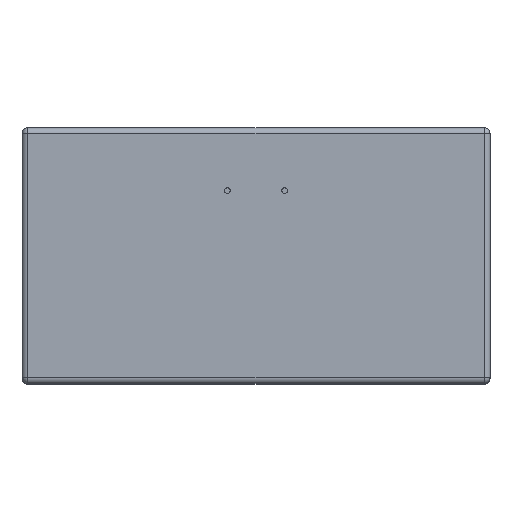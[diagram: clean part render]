
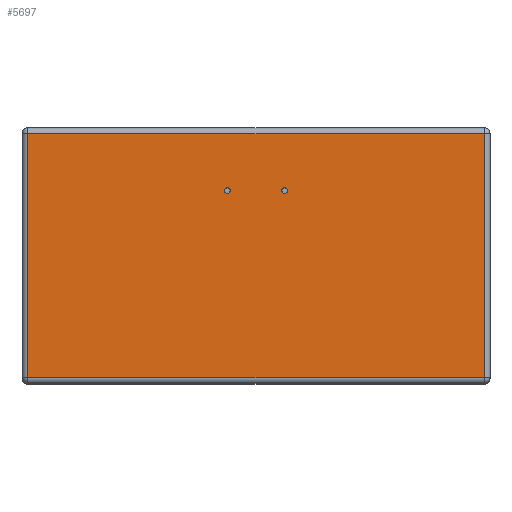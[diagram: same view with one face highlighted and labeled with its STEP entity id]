
A CAD part, top view. The second image highlights one B-rep face of the part: STEP entity #5697.
In plain terms, the highlighted planar face has unit normal (0, 0, 1).
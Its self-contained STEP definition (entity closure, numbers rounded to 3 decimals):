
#1073=CARTESIAN_POINT('',(2.5,5.7,29.));
#1074=DIRECTION('',(0.,0.,-1.));
#1075=DIRECTION('',(-1.,0.,0.));
#1076=AXIS2_PLACEMENT_3D('',#1073,#1074,#1075);
#1081=CARTESIAN_POINT('',(2.5,5.7,29.));
#1082=DIRECTION('',(0.,0.,-1.));
#1083=DIRECTION('',(1.,0.,0.));
#1084=AXIS2_PLACEMENT_3D('',#1081,#1082,#1083);
#1089=CARTESIAN_POINT('',(-2.5,5.7,29.));
#1090=DIRECTION('',(0.,0.,-1.));
#1091=DIRECTION('',(-1.,0.,0.));
#1092=AXIS2_PLACEMENT_3D('',#1089,#1090,#1091);
#1097=CARTESIAN_POINT('',(-2.5,5.7,29.));
#1098=DIRECTION('',(0.,0.,-1.));
#1099=DIRECTION('',(1.,0.,0.));
#1100=AXIS2_PLACEMENT_3D('',#1097,#1098,#1099);
#1105=DIRECTION('',(0.,-1.,0.));
#1106=VECTOR('',#1105,21.4);
#1107=CARTESIAN_POINT('',(-20.,10.7,29.));
#1108=LINE('',#1107,#1106);
#1112=DIRECTION('',(-1.,0.,0.));
#1113=VECTOR('',#1112,40.);
#1114=CARTESIAN_POINT('',(20.,10.7,29.));
#1115=LINE('',#1114,#1113);
#1119=DIRECTION('',(0.,1.,0.));
#1120=VECTOR('',#1119,21.4);
#1121=CARTESIAN_POINT('',(20.,-10.7,29.));
#1122=LINE('',#1121,#1120);
#1126=DIRECTION('',(1.,0.,0.));
#1127=VECTOR('',#1126,40.);
#1128=CARTESIAN_POINT('',(-20.,-10.7,29.));
#1129=LINE('',#1128,#1127);
#4765=CARTESIAN_POINT('',(2.25,5.7,29.));
#4766=VERTEX_POINT('',#4765);
#4767=CARTESIAN_POINT('',(2.75,5.7,29.));
#4768=VERTEX_POINT('',#4767);
#4769=CARTESIAN_POINT('',(-2.75,5.7,29.));
#4770=VERTEX_POINT('',#4769);
#4771=CARTESIAN_POINT('',(-2.25,5.7,29.));
#4772=VERTEX_POINT('',#4771);
#4881=CARTESIAN_POINT('',(-20.,10.7,29.));
#4882=CARTESIAN_POINT('',(-20.,-10.7,29.));
#4883=VERTEX_POINT('',#4881);
#4884=VERTEX_POINT('',#4882);
#4889=CARTESIAN_POINT('',(20.,-10.7,29.));
#4890=VERTEX_POINT('',#4889);
#4895=CARTESIAN_POINT('',(20.,10.7,29.));
#4896=VERTEX_POINT('',#4895);
#5671=CARTESIAN_POINT('',(0.,0.,29.));
#5672=DIRECTION('',(0.,0.,1.));
#5673=DIRECTION('',(-1.,0.,0.));
#5674=AXIS2_PLACEMENT_3D('',#5671,#5672,#5673);
#5675=PLANE('',#5674);
#5677=ORIENTED_EDGE('',*,*,#5676,.F.);
#5678=ORIENTED_EDGE('',*,*,#5661,.F.);
#5680=ORIENTED_EDGE('',*,*,#5679,.F.);
#5682=ORIENTED_EDGE('',*,*,#5681,.F.);
#5683=EDGE_LOOP('',(#5677,#5678,#5680,#5682));
#5684=FACE_OUTER_BOUND('',#5683,.F.);
#5686=ORIENTED_EDGE('',*,*,#5685,.F.);
#5688=ORIENTED_EDGE('',*,*,#5687,.F.);
#5689=EDGE_LOOP('',(#5686,#5688));
#5690=FACE_BOUND('',#5689,.F.);
#5692=ORIENTED_EDGE('',*,*,#5691,.F.);
#5694=ORIENTED_EDGE('',*,*,#5693,.F.);
#5695=EDGE_LOOP('',(#5692,#5694));
#5696=FACE_BOUND('',#5695,.F.);
#5697=ADVANCED_FACE('',(#5684,#5690,#5696),#5675,.T.);
#1077=CIRCLE('',#1076,0.25);
#1085=CIRCLE('',#1084,0.25);
#1093=CIRCLE('',#1092,0.25);
#1101=CIRCLE('',#1100,0.25);
#5661=EDGE_CURVE('',#4896,#4883,#1115,.T.);
#5676=EDGE_CURVE('',#4883,#4884,#1108,.T.);
#5679=EDGE_CURVE('',#4890,#4896,#1122,.T.);
#5681=EDGE_CURVE('',#4884,#4890,#1129,.T.);
#5685=EDGE_CURVE('',#4770,#4772,#1093,.T.);
#5687=EDGE_CURVE('',#4772,#4770,#1101,.T.);
#5691=EDGE_CURVE('',#4766,#4768,#1077,.T.);
#5693=EDGE_CURVE('',#4768,#4766,#1085,.T.);
